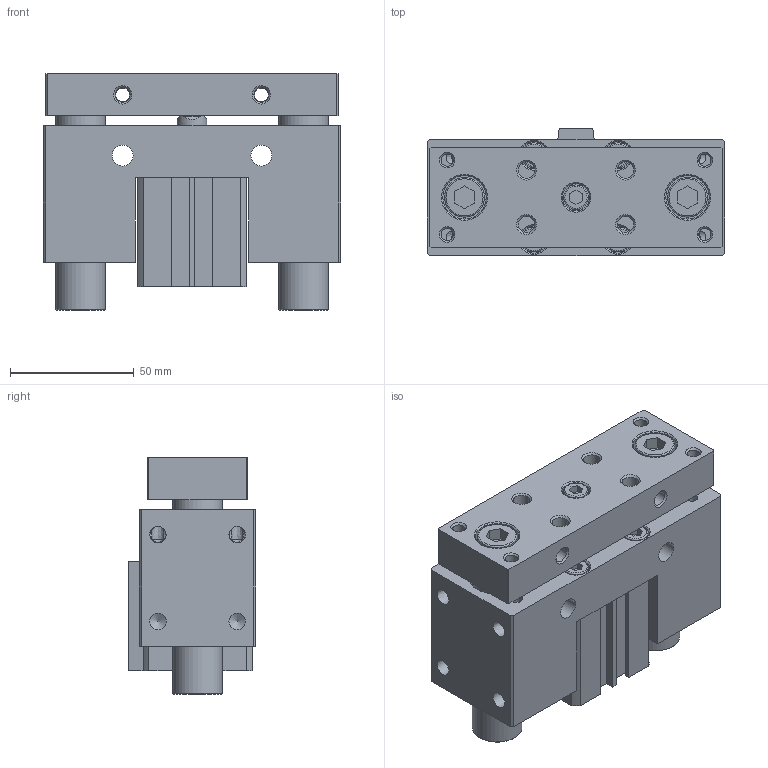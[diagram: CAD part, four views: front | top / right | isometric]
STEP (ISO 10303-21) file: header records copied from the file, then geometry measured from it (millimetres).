
FILE_DESCRIPTION((''),'2;1');
FILE_NAME('I:\3D電子目錄\氣缸\JCB\JCB\JCB32\JCB32x20.stp','2007-08-21T20:24:21',('Administrator'),(''),'Autodesk Inventor 11','Autodesk Inventor 11','');
FILE_SCHEMA(('AUTOMOTIVE_DESIGN { 1 0 10303 214 1 1 1 1 }'));
Length unit declared in the file: millimetre
Products named in the file (1): JCB32
Bounding box: 120 x 51.5 x 95.4 mm (x, y, z)
Volume: 374137.1 mm3; surface area: 92916.3 mm2
Topology: 3 solids, 3 shells, 320 faces, 754 edges, 489 vertices
Faces by surface type: plane 173, cylinder 53, bspline 45, cone 41, torus 8
Full cylindrical faces by diameter (mm): 2.2 x1, 5.1 x4, 6 x2, 6.647 x4, 8 x8, 10 x5, 11 x5, 12 x1, 13 x1, 16 x2, 17.5 x2, 20 x2, 22 x1, 23 x3, 34 x4, 36 x2
Entity records: 9272 total; most frequent: CARTESIAN_POINT 2540, DIRECTION 1340, ORIENTED_EDGE 1192, EDGE_CURVE 596, EDGE_LOOP 534, AXIS2_PLACEMENT_3D 492, VERTEX_POINT 458, VECTOR 356
